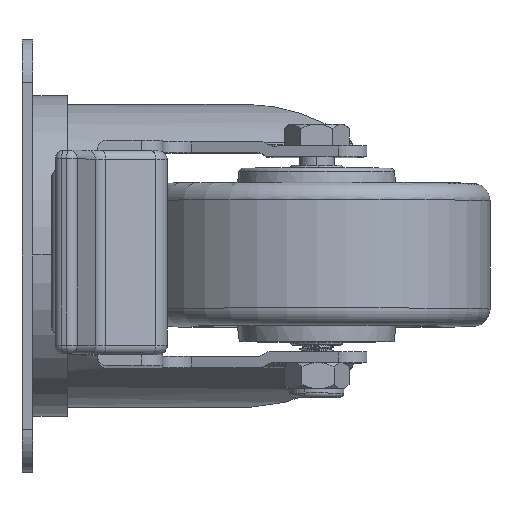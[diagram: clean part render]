
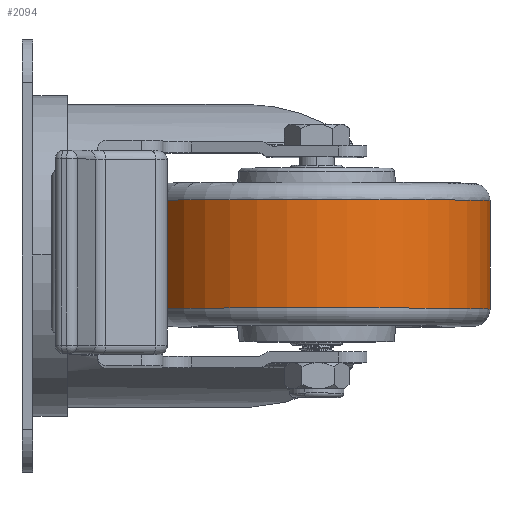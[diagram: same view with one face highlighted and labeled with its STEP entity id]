
A CAD part, left-side view. The second image highlights one B-rep face of the part: STEP entity #2094.
In plain terms, the highlighted cylindrical face has radius 40 mm (diameter 80 mm), a partial arc.
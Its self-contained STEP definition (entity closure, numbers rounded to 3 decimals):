
#470 = CIRCLE ( 'NONE', #41785, 40. ) ;
#940 = DIRECTION ( 'NONE',  ( 0., 0., -1. ) ) ;
#946 = AXIS2_PLACEMENT_3D ( 'NONE', #27302, #9867, #41634 ) ;
#1523 = ORIENTED_EDGE ( 'NONE', *, *, #16035, .F. ) ;
#2094 = ADVANCED_FACE ( 'NONE', ( #39585 ), #21720, .T. ) ;
#4071 = DIRECTION ( 'NONE',  ( 0., 0., -1. ) ) ;
#4883 = EDGE_CURVE ( 'NONE', #6368, #17047, #470, .T. ) ;
#6368 = VERTEX_POINT ( 'NONE', #38057 ) ;
#9867 = DIRECTION ( 'NONE',  ( 0., -1., 0. ) ) ;
#11803 = CARTESIAN_POINT ( 'NONE',  ( 0., -12.5, 0. ) ) ;
#14925 = VECTOR ( 'NONE', #42500, 1000. ) ;
#15371 = EDGE_CURVE ( 'NONE', #29997, #17047, #34783, .T. ) ;
#15392 = ORIENTED_EDGE ( 'NONE', *, *, #33936, .T. ) ;
#16035 = EDGE_CURVE ( 'NONE', #30713, #6368, #20723, .T. ) ;
#17047 = VERTEX_POINT ( 'NONE', #19942 ) ;
#19942 = CARTESIAN_POINT ( 'NONE',  ( 0., -12.5, -40. ) ) ;
#20655 = CARTESIAN_POINT ( 'NONE',  ( 0., 0., -40. ) ) ;
#20723 = LINE ( 'NONE', #35072, #30746 ) ;
#21255 = CIRCLE ( 'NONE', #946, 40. ) ;
#21720 = CYLINDRICAL_SURFACE ( 'NONE', #25252, 40. ) ;
#25252 = AXIS2_PLACEMENT_3D ( 'NONE', #36289, #36045, #4071 ) ;
#27302 = CARTESIAN_POINT ( 'NONE',  ( 0., 12.5, 0. ) ) ;
#28850 = ORIENTED_EDGE ( 'NONE', *, *, #4883, .F. ) ;
#29997 = VERTEX_POINT ( 'NONE', #43407 ) ;
#30713 = VERTEX_POINT ( 'NONE', #36889 ) ;
#30746 = VECTOR ( 'NONE', #43254, 1000. ) ;
#33936 = EDGE_CURVE ( 'NONE', #30713, #29997, #21255, .T. ) ;
#34062 = EDGE_LOOP ( 'NONE', ( #1523, #15392, #39617, #28850 ) ) ;
#34783 = LINE ( 'NONE', #20655, #14925 ) ;
#35072 = CARTESIAN_POINT ( 'NONE',  ( 0., 0., 40. ) ) ;
#36045 = DIRECTION ( 'NONE',  ( 0., -1., 0. ) ) ;
#36289 = CARTESIAN_POINT ( 'NONE',  ( 0., 0., 0. ) ) ;
#36889 = CARTESIAN_POINT ( 'NONE',  ( 0., 12.5, 40. ) ) ;
#38057 = CARTESIAN_POINT ( 'NONE',  ( 0., -12.5, 40. ) ) ;
#39585 = FACE_OUTER_BOUND ( 'NONE', #34062, .T. ) ;
#39617 = ORIENTED_EDGE ( 'NONE', *, *, #15371, .T. ) ;
#41634 = DIRECTION ( 'NONE',  ( 0., 0., -1. ) ) ;
#41785 = AXIS2_PLACEMENT_3D ( 'NONE', #11803, #44471, #940 ) ;
#42500 = DIRECTION ( 'NONE',  ( 0., -1., 0. ) ) ;
#43254 = DIRECTION ( 'NONE',  ( 0., -1., 0. ) ) ;
#43407 = CARTESIAN_POINT ( 'NONE',  ( 0., 12.5, -40. ) ) ;
#44471 = DIRECTION ( 'NONE',  ( 0., -1., 0. ) ) ;
